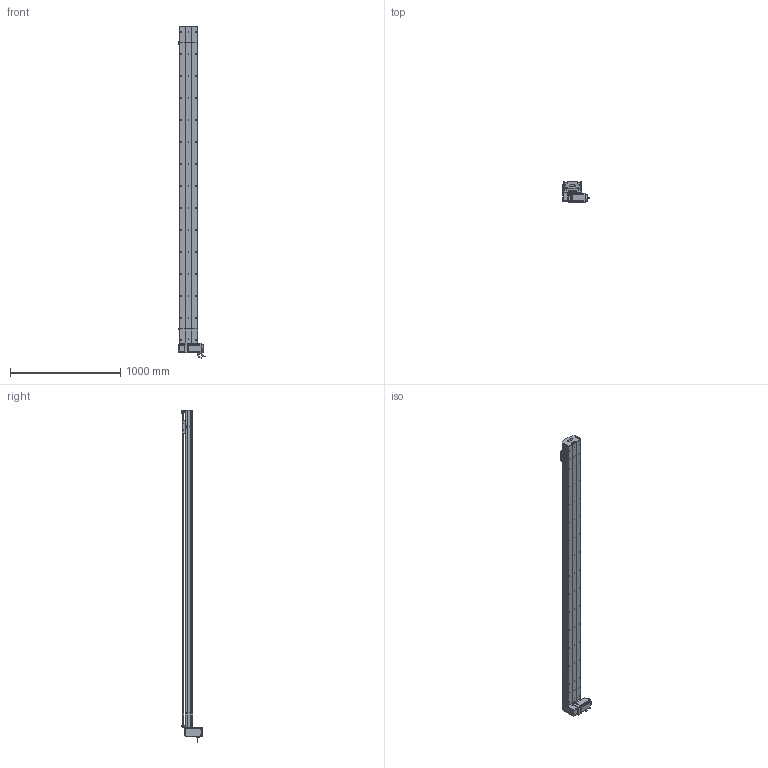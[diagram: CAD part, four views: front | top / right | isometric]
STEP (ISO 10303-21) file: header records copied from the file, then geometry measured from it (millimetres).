
FILE_DESCRIPTION (( 'STEP AP214' ), '1' );
FILE_NAME ('D17 TBN RU S2600.STEP', '2010-06-30T13:01:30', ( 'Conseil Régional Haute-Normandie' ), ( 'Conseil Régional Haute-Normandie' ), 'SwSTEP 2.0', 'SolidWorks 2010', '' );
FILE_SCHEMA (( 'AUTOMOTIVE_DESIGN' ));
Length unit declared in the file: millimetre
Products named in the file (40): Tail D17B_Default; avant 90BLDC125A-640; corps 90BLDC125A-640; Renvoi RU_Default; cache arbre D17_Default; Vis M5 L16-2_Default; vis M5 L16_Default; Plaque racord D17_Default; vis M5 L70_Default; Conecteur_Default; Conecteur2_Default; codeur 90BLDC125-640; corpl tail D17B_Default; guide D17; Chariot D17 TBN; chariot D17 TBN; vis M5 L25_Default; vis M5 L12_Default; poulie tail_Default; plaque de  bout tail D17B_Default; Rail D17B; vis M5 L8 90°_Default; couvercle D17B_Default; Couroie tail D17B_Default; tete d''axe poulie D17B; Couroie+ rail D17 Course 2600 ; course 2600 D17B_Default; D17 TBN RU S2600; couvercle D17B course L2600_Default; corp D17B 2600_Default; couvercle D17B head_Default; corpl head D17 _Default; Head RU D17B_Default; vis M5 L5_Default; cache D17_Default; Arbre+rail head D17B; plaque de  bout head D17B RU_Default; Moteur motionking 90BLDC125A-640; couroie head D17_Default; poulie head_Default
Assembly tree (66 placements, depth 4):
  D17 TBN RU S2600
    Head RU D17B_Default
      vis M5 L25_Default  x2
      poulie head_Default
      vis M5 L70_Default  x4
      plaque de  bout head D17B RU_Default
      vis M5 L12_Default  x8
      vis M5 L5_Default  x4
      corpl head D17 _Default
      Renvoi RU_Default
      vis M5 L16_Default  x2
      cache arbre D17_Default
      Vis M5 L16-2_Default  x4
      Moteur motionking 90BLDC125A-640
        Conecteur_Default
        Conecteur2_Default
        avant 90BLDC125A-640
        codeur 90BLDC125-640
        corps 90BLDC125A-640
      Arbre+rail head D17B
      cache D17_Default  x2
      couvercle D17B head_Default
      couroie head D17_Default
      Plaque racord D17_Default
    Tail D17B_Default
      poulie tail_Default
      Rail D17B
      vis M5 L12_Default  x4
      vis M5 L8 90°_Default  x2
      couvercle D17B_Default
      tete d''axe poulie D17B
      vis M5 L25_Default  x2
      Couroie tail D17B_Default
      plaque de  bout tail D17B_Default
      corpl tail D17B_Default
    course 2600 D17B_Default
      couvercle D17B course L2600_Default
      Couroie+ rail D17 Course 2600 
      corp D17B 2600_Default
    chariot D17 TBN
      Chariot D17 TBN
      guide D17  x2
Bounding box: 245.2 x 188.65 x 3017.95 mm (x, y, z)
Volume: 17249390.8 mm3; surface area: 5019504.2 mm2
Topology: 89 solids, 89 shells, 2627 faces, 6737 edges, 4342 vertices
Faces by surface type: plane 1533, cylinder 797, bspline 136, cone 80, torus 77, sphere 4
Entity records: 85403 total; most frequent: CARTESIAN_POINT 25367, ORIENTED_EDGE 10646, DIRECTION 10052, EDGE_CURVE 5323, LINE 3490, VECTOR 3490, VERTEX_POINT 3486, AXIS2_PLACEMENT_3D 3281
